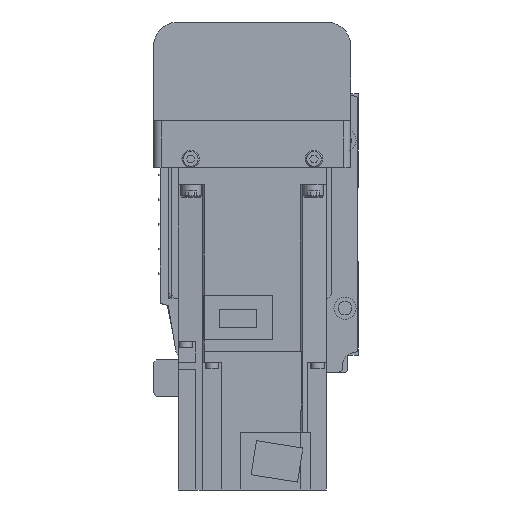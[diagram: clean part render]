
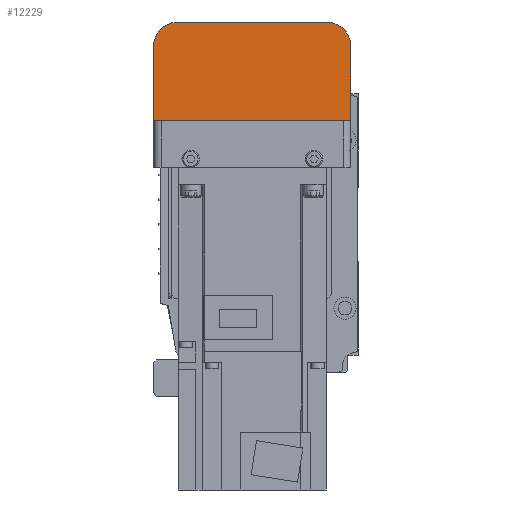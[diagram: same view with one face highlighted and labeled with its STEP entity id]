
A CAD part, left-side view. The second image highlights one B-rep face of the part: STEP entity #12229.
In plain terms, the highlighted planar face has unit normal (-1, 0, 0).
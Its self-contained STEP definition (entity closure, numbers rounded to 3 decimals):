
#463=CIRCLE('',#13159,10.);
#464=CIRCLE('',#13160,10.);
#2102=ORIENTED_EDGE('',*,*,#4957,.F.);
#2103=ORIENTED_EDGE('',*,*,#4958,.F.);
#2104=ORIENTED_EDGE('',*,*,#4959,.F.);
#2105=ORIENTED_EDGE('',*,*,#4960,.F.);
#2106=ORIENTED_EDGE('',*,*,#4961,.F.);
#2107=ORIENTED_EDGE('',*,*,#4962,.F.);
#4957=EDGE_CURVE('',#6491,#6487,#7737,.T.);
#4958=EDGE_CURVE('',#6503,#6491,#7738,.T.);
#4959=EDGE_CURVE('',#6504,#6503,#463,.T.);
#4960=EDGE_CURVE('',#6505,#6504,#7739,.T.);
#4961=EDGE_CURVE('',#6506,#6505,#464,.T.);
#4962=EDGE_CURVE('',#6487,#6506,#7740,.T.);
#6487=VERTEX_POINT('',#19063);
#6491=VERTEX_POINT('',#19073);
#6503=VERTEX_POINT('',#19102);
#6504=VERTEX_POINT('',#19104);
#6505=VERTEX_POINT('',#19106);
#6506=VERTEX_POINT('',#19108);
#7737=LINE('',#19100,#8965);
#7738=LINE('',#19101,#8966);
#7739=LINE('',#19105,#8967);
#7740=LINE('',#19109,#8968);
#8965=VECTOR('',#15352,1000.);
#8966=VECTOR('',#15353,1000.);
#8967=VECTOR('',#15356,1000.);
#8968=VECTOR('',#15359,1000.);
#10020=EDGE_LOOP('',(#2102,#2103,#2104,#2105,#2106,#2107));
#10926=FACE_BOUND('',#10020,.T.);
#11675=PLANE('',#13158);
#12229=ADVANCED_FACE('',(#10926),#11675,.F.);
#13158=AXIS2_PLACEMENT_3D('',#19099,#15350,#15351);
#13159=AXIS2_PLACEMENT_3D('',#19103,#15354,#15355);
#13160=AXIS2_PLACEMENT_3D('',#19107,#15357,#15358);
#15350=DIRECTION('',(1.,0.,0.));
#15351=DIRECTION('',(0.,0.,-1.));
#15352=DIRECTION('',(0.,-1.,0.));
#15353=DIRECTION('',(0.,0.,1.));
#15354=DIRECTION('',(1.,0.,0.));
#15355=DIRECTION('',(0.,0.,-1.));
#15356=DIRECTION('',(0.,1.,0.));
#15357=DIRECTION('',(1.,0.,0.));
#15358=DIRECTION('',(0.,0.,-1.));
#15359=DIRECTION('',(0.,0.,-1.));
#19063=CARTESIAN_POINT('',(-192.,-40.,-12.1));
#19073=CARTESIAN_POINT('',(-192.,40.,-12.1));
#19099=CARTESIAN_POINT('',(-192.,37.,7.));
#19100=CARTESIAN_POINT('',(-192.,50.,-12.1));
#19101=CARTESIAN_POINT('',(-192.,40.,-42.));
#19102=CARTESIAN_POINT('',(-192.,40.,-42.));
#19103=CARTESIAN_POINT('',(-192.,30.,-42.));
#19104=CARTESIAN_POINT('',(-192.,30.,-52.));
#19105=CARTESIAN_POINT('',(-192.,-30.,-52.));
#19106=CARTESIAN_POINT('',(-192.,-30.,-52.));
#19107=CARTESIAN_POINT('',(-192.,-30.,-42.));
#19108=CARTESIAN_POINT('',(-192.,-40.,-42.));
#19109=CARTESIAN_POINT('',(-192.,-40.,-12.1));
